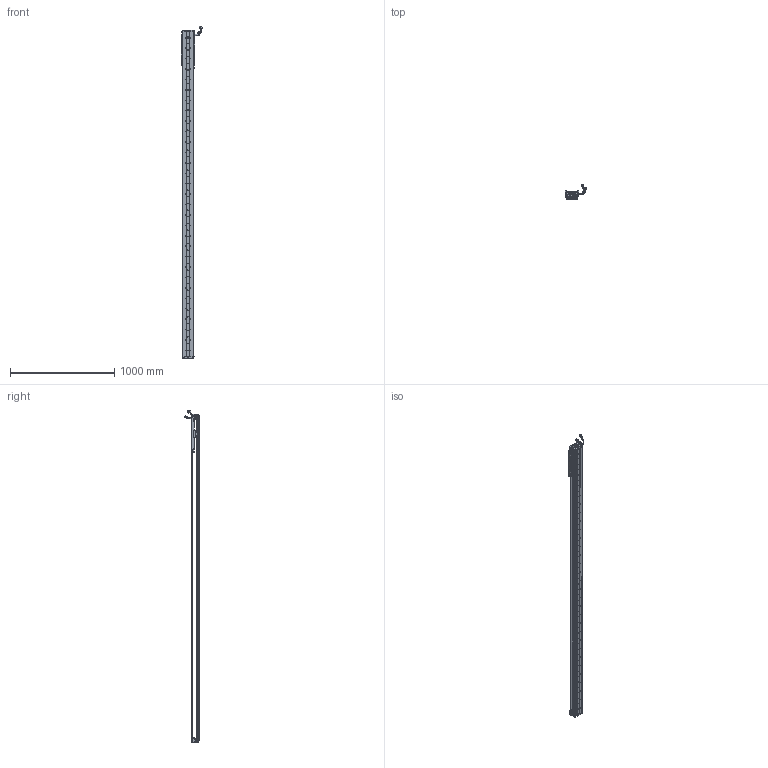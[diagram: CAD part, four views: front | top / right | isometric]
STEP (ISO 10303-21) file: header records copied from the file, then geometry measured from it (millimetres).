
FILE_DESCRIPTION (( 'STEP AP203' ), '1' );
FILE_NAME ('Z4-RY100D-1-L500-B-K.SLDASM_2750.step', '2021-05-17T03:05:01', ( '盈信电脑' ), ( '东莞市道滘镇水果街19号' ), 'SwSTEP 2.0', 'SolidWorks 2016', '' );
FILE_SCHEMA (( 'CONFIG_CONTROL_DESIGN' ));
Length unit declared in the file: millimetre
Products named in the file (36): SHIELDPLATE; Z4-RY100D-500-倰第菁釱_2750; PBU_SHEET; COVER-Part-1; Z-100詩湍傷裔啣; Z-RY100D詩湍奻揤裔; HARNESS-Part-2; SCALE-Part-2; SCREW-M1.6; Z-RY100D詩湍狟揤裔; LABEL; SEAL-Part-1; HARNESS; 140雄赽晤鎢ん堤盄; SCREW-M1.6-1; PSLH080_PSLF2; Z4-RY100D-1-L500-B-K.SLDASM_2750; SCREW-M1.7; SCREW-M1.6-3; 080黍杅芛假蚾釱21遴; SCREW-M1.6-2; SCREW-M1.7-1; Z4-RY100铝滑块（21款）; 140蚥薯蝶輸; 100-Z-臏賑輸盄裔(21遴); SCALE; COVER; SEAL; HARNESS-Part-1; HOLDER0; Z4-RY100-L500詩湍90mm遵_2750; LABEL-Part-1; SCALE-Part-1; Z-RY100D覜茼んえ; 覜茼ん672; 榋妏寠巭燃_暯_M2_2
Assembly tree (43 placements, depth 4):
  Z4-RY100D-1-L500-B-K.SLDASM_2750
    Z4-RY100D-500-倰第菁釱_2750
    Z4-RY100铝滑块（21款）
    PSLH080_PSLF2
      SCALE
        SCALE-Part-1
        SCALE-Part-2
      HARNESS
        HARNESS-Part-1
        HARNESS-Part-2
      LABEL
        LABEL-Part-1
      COVER
        COVER-Part-1
      SEAL
        SEAL-Part-1
      榋妏寠巭燃_暯_M2_2
      SHIELDPLATE
      SCREW-M1.7
      SCREW-M1.7-1
      PBU_SHEET
      SCREW-M1.6
      SCREW-M1.6-1
      SCREW-M1.6-2
      SCREW-M1.6-3
      HOLDER0
    080黍杅芛假蚾釱21遴
    Z-100詩湍傷裔啣  x2
    140蚥薯蝶輸  x2
    覜茼ん672  x3
    Z-RY100D覜茼んえ  x3
    100-Z-臏賑輸盄裔(21遴)
    140雄赽晤鎢ん堤盄
    Z4-RY100-L500詩湍90mm遵_2750
    Z-RY100D詩湍狟揤裔  x2
    Z-RY100D詩湍奻揤裔  x2
Bounding box: 205.79 x 136.11 x 3185.43 mm (x, y, z)
Volume: 5823623.4 mm3; surface area: 2285328 mm2
Topology: 38 solids, 38 shells, 3142 faces, 8653 edges, 5536 vertices
Faces by surface type: cylinder 1590, plane 1204, cone 226, torus 69, bspline 53
Entity records: 92349 total; most frequent: CARTESIAN_POINT 19302, DIRECTION 14961, ORIENTED_EDGE 14186, EDGE_CURVE 7093, AXIS2_PLACEMENT_3D 5655, VERTEX_POINT 4604, VECTOR 3651, LINE 3651
